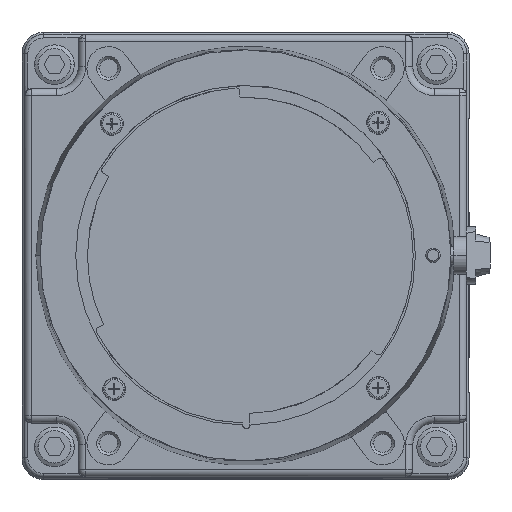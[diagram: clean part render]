
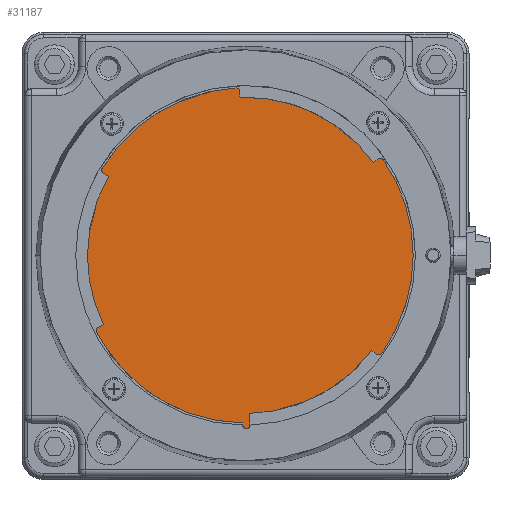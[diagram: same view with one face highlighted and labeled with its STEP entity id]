
A CAD part, top view. The second image highlights one B-rep face of the part: STEP entity #31187.
In plain terms, the highlighted planar face has unit normal (0, 0, 1).
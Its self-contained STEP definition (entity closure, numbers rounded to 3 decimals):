
#6204=CARTESIAN_POINT('',(-26.5,26.5,44.643));
#6205=DIRECTION('',(0.,0.,1.));
#6206=DIRECTION('',(0.,1.,0.));
#6207=AXIS2_PLACEMENT_3D('',#6204,#6205,#6206);
#6209=CARTESIAN_POINT('',(26.5,26.5,44.643));
#6210=DIRECTION('',(0.,0.,1.));
#6211=DIRECTION('',(1.,0.,0.));
#6212=AXIS2_PLACEMENT_3D('',#6209,#6210,#6211);
#6214=DIRECTION('',(0.,1.,0.));
#6215=VECTOR('',#6214,53.);
#6216=CARTESIAN_POINT('',(29.5,-26.5,44.643));
#6217=LINE('',#6216,#6215);
#6218=CARTESIAN_POINT('',(26.5,-26.5,44.643));
#6219=DIRECTION('',(0.,0.,1.));
#6220=DIRECTION('',(0.,-1.,0.));
#6221=AXIS2_PLACEMENT_3D('',#6218,#6219,#6220);
#6223=CARTESIAN_POINT('',(-26.5,-26.5,44.643));
#6224=DIRECTION('',(0.,0.,1.));
#6225=DIRECTION('',(-1.,0.,0.));
#6226=AXIS2_PLACEMENT_3D('',#6223,#6224,#6225);
#6236=DIRECTION('',(0.,1.,0.));
#6237=VECTOR('',#6236,53.);
#6238=CARTESIAN_POINT('',(-29.5,-26.5,44.643));
#6239=LINE('',#6238,#6237);
#6256=DIRECTION('',(-1.,0.,0.));
#6257=VECTOR('',#6256,53.);
#6258=CARTESIAN_POINT('',(26.5,-29.5,44.643));
#6259=LINE('',#6258,#6257);
#6272=DIRECTION('',(-1.,0.,0.));
#6273=VECTOR('',#6272,53.);
#6274=CARTESIAN_POINT('',(26.5,29.5,44.643));
#6275=LINE('',#6274,#6273);
#16576=CARTESIAN_POINT('',(29.5,26.5,44.643));
#16578=VERTEX_POINT('',#16576);
#16580=CARTESIAN_POINT('',(29.5,-26.5,44.643));
#16581=VERTEX_POINT('',#16580);
#16584=CARTESIAN_POINT('',(26.5,29.5,44.643));
#16585=VERTEX_POINT('',#16584);
#16588=CARTESIAN_POINT('',(-26.5,29.5,44.643));
#16589=CARTESIAN_POINT('',(-29.5,26.5,44.643));
#16590=VERTEX_POINT('',#16588);
#16591=VERTEX_POINT('',#16589);
#16592=CARTESIAN_POINT('',(26.5,-29.5,44.643));
#16593=VERTEX_POINT('',#16592);
#16594=CARTESIAN_POINT('',(-26.5,-29.5,44.643));
#16595=VERTEX_POINT('',#16594);
#16596=CARTESIAN_POINT('',(-29.5,-26.5,44.643));
#16597=VERTEX_POINT('',#16596);
#31166=CARTESIAN_POINT('',(0.,0.,44.643));
#31167=DIRECTION('',(0.,0.,1.));
#31168=DIRECTION('',(1.,0.,0.));
#31169=AXIS2_PLACEMENT_3D('',#31166,#31167,#31168);
#31170=PLANE('',#31169);
#31172=ORIENTED_EDGE('',*,*,#31171,.F.);
#31174=ORIENTED_EDGE('',*,*,#31173,.F.);
#31175=ORIENTED_EDGE('',*,*,#31150,.F.);
#31176=ORIENTED_EDGE('',*,*,#31133,.F.);
#31178=ORIENTED_EDGE('',*,*,#31177,.F.);
#31180=ORIENTED_EDGE('',*,*,#31179,.T.);
#31182=ORIENTED_EDGE('',*,*,#31181,.F.);
#31184=ORIENTED_EDGE('',*,*,#31183,.T.);
#31185=EDGE_LOOP('',(#31172,#31174,#31175,#31176,#31178,#31180,#31182,#31184));
#31186=FACE_OUTER_BOUND('',#31185,.F.);
#6208=CIRCLE('',#6207,3.);
#6213=CIRCLE('',#6212,3.);
#6222=CIRCLE('',#6221,3.);
#6227=CIRCLE('',#6226,3.);
#31133=EDGE_CURVE('',#16581,#16578,#6217,.T.);
#31150=EDGE_CURVE('',#16578,#16585,#6213,.T.);
#31171=EDGE_CURVE('',#16590,#16591,#6208,.T.);
#31173=EDGE_CURVE('',#16585,#16590,#6275,.T.);
#31177=EDGE_CURVE('',#16593,#16581,#6222,.T.);
#31179=EDGE_CURVE('',#16593,#16595,#6259,.T.);
#31181=EDGE_CURVE('',#16597,#16595,#6227,.T.);
#31183=EDGE_CURVE('',#16597,#16591,#6239,.T.);
#31187=ADVANCED_FACE('',(#31186),#31170,.T.);
